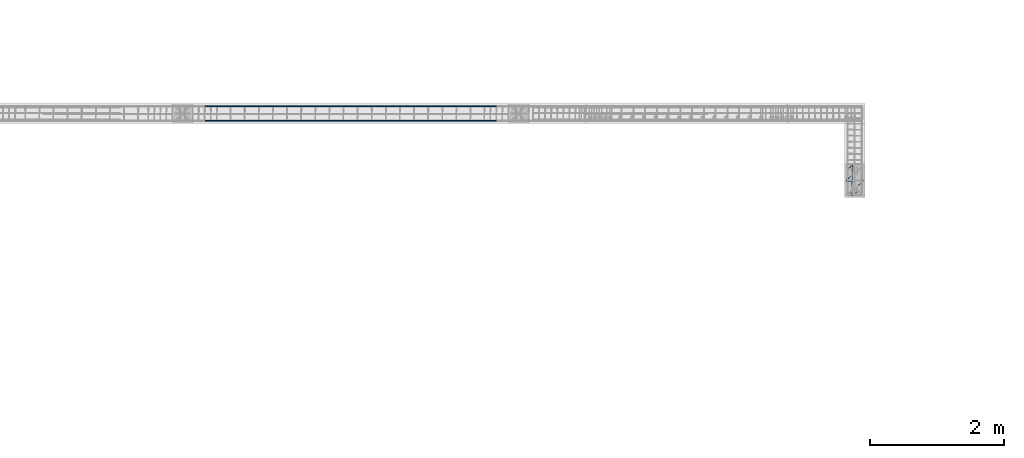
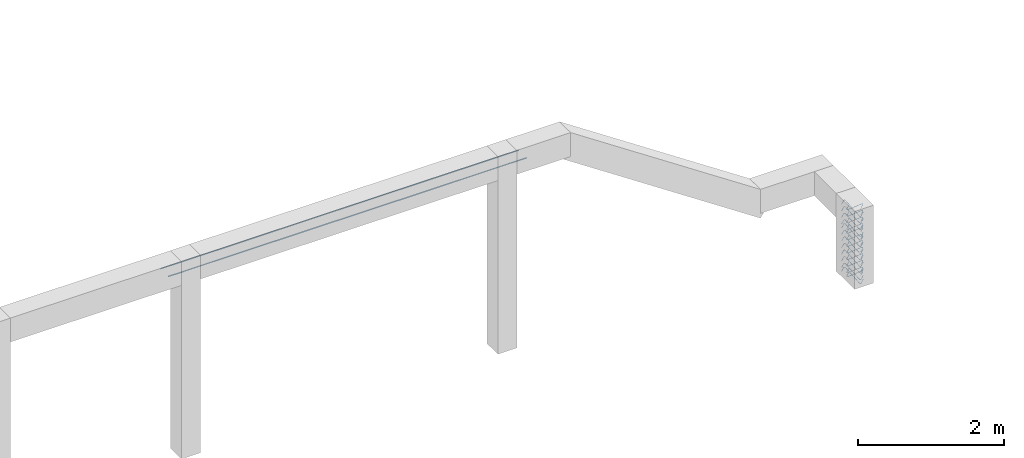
# One storey, part 14 of 24: 2 reinforcing bars.
"""IFC2X3 building model written with IfcOpenShell, lengths in metres."""

from ifc_helpers import new_model, entity, si_unit, direction, frame, origin, place, context, subcontext, project, spatial, shape, source, transform, mapped, element, save


model = new_model("IFC2X3")

# Units and contexts
model_context = context("Model", 3, precision=0.0, world=origin(), true_north=direction((0.0, 1.0)))
plan_context = context("Plan", 3, precision=0.0, world=origin(), true_north=direction((0.0, 1.0)))
body_context = subcontext(model_context, "Body", "Model", "MODEL_VIEW", scale=1.0)
ifc_project = project(units=[si_unit("LENGTHUNIT", "METRE"), si_unit("AREAUNIT", "SQUARE_METRE"), si_unit("VOLUMEUNIT", "CUBIC_METRE"), si_unit("PLANEANGLEUNIT", "RADIAN"), si_unit("THERMODYNAMICTEMPERATUREUNIT", "DEGREE_CELSIUS"), si_unit("FORCEUNIT", "NEWTON"), si_unit("MASSUNIT", "GRAM", prefix="KILO")], contexts=[model_context, plan_context])

# Site, building, storey
placement = place(None, origin())
site = spatial("IfcSite", under=ifc_project, at=placement, Name="Default Site", CompositionType="ELEMENT")
building = spatial("IfcBuilding", under=site, at=placement, Name="Default Building", CompositionType="ELEMENT")
storey_placement = place(placement, frame((0.0, 0.0, 3.3), z_axis=(1.0, 0.0, 0.0), x_axis=(0.0, 0.0, 1.0)))
storey = spatial("IfcBuildingStorey", under=building, at=storey_placement, Name="Piano 2", CompositionType="ELEMENT", Elevation=3.3)

# Reinforcing bars
shared_shape_1 = source(origin(), body_context, None, "AdvancedSweptSolid", [
    entity("IfcSweptDiskSolid", entity("IfcCompositeCurve", [entity("IfcCompositeCurveSegment", "CONTINUOUS", True, entity("IfcPolyline", [entity("IfcCartesianPoint", [0.0, 0.0, 0.0]), entity("IfcCartesianPoint", [0.326909, 0.0, 0.0]), entity("IfcCartesianPoint", [5.326909, 0.0, 0.0]), entity("IfcCartesianPoint", [5.653818, 0.0, 0.0])]))], False), 0.006, 0.0, 0.0),
])
shared_shape_2 = source(origin(), body_context, None, "MappedRepresentation", [mapped(shared_shape_1, transform((6.673091, 5.106, 3.087)))])
shared_shape_3 = source(origin(), body_context, None, "AdvancedSweptSolid", [
    entity("IfcSweptDiskSolid", entity("IfcCompositeCurve", [entity("IfcCompositeCurveSegment", "CONTINUOUS", True, entity("IfcPolyline", [entity("IfcCartesianPoint", [0.0, 0.0, 0.0]), entity("IfcCartesianPoint", [0.326909, 0.0, 0.0]), entity("IfcCartesianPoint", [5.326909, 0.0, 0.0]), entity("IfcCartesianPoint", [5.653818, 0.0, 0.0])]))], False), 0.006, 0.0, 0.0),
])
shared_shape_4 = source(origin(), body_context, None, "MappedRepresentation", [mapped(shared_shape_3, transform((6.673091, 4.894, 3.087)))])
element("IfcReinforcingBar", 1, at=placement, inside=storey, Name="Arm Generica; Trave:7 [Piano:2]", BarLength=11.307635, BarRole="NOTDEFINED", BarSurface="TEXTURED", NominalDiameter=0.012, shapes=[
    shape(body_context, None, "MappedRepresentation", [mapped(shared_shape_2, transform((0.0, 0.0, 0.0))), mapped(shared_shape_4, transform((0.0, 0.0, 0.0)))]),
])
shared_shape_5 = source(origin(), body_context, None, "AdvancedSweptSolid", [
    entity("IfcSweptDiskSolid", entity("IfcCompositeCurve", [entity("IfcCompositeCurveSegment", "CONTINUOUS", True, entity("IfcPolyline", [entity("IfcCartesianPoint", [0.0, 0.0, 0.0]), entity("IfcCartesianPoint", [-0.068884, -0.063585, 0.0]), entity("IfcCartesianPoint", [-0.079736, -0.067828, 0.0]), entity("IfcCartesianPoint", [-0.084613, -0.065808, 0.0]), entity("IfcCartesianPoint", [-0.089037, -0.055129, 0.0]), entity("IfcCartesianPoint", [-0.089037, -0.052272, 0.0]), entity("IfcCartesianPoint", [-0.067037, 0.368616, 0.0]), entity("IfcCartesianPoint", [-0.067037, 0.371101, 0.0]), entity("IfcCartesianPoint", [-0.071723, 0.382415, 0.0]), entity("IfcCartesianPoint", [-0.075966, 0.384172, 0.0]), entity("IfcCartesianPoint", [-0.08719, 0.379929, 0.0]), entity("IfcCartesianPoint", [-0.156073, 0.316344, 0.0])]))], False), 0.004, 0.0, 0.0),
])
shared_shape_6 = source(origin(), body_context, None, "AdvancedSweptSolid", [
    entity("IfcSweptDiskSolid", entity("IfcCompositeCurve", [entity("IfcCompositeCurveSegment", "CONTINUOUS", True, entity("IfcPolyline", [entity("IfcCartesianPoint", [0.0, 0.0, 0.0]), entity("IfcCartesianPoint", [-0.068884, -0.063585, 0.0]), entity("IfcCartesianPoint", [-0.079736, -0.067828, 0.0]), entity("IfcCartesianPoint", [-0.084613, -0.065808, 0.0]), entity("IfcCartesianPoint", [-0.089037, -0.055129, 0.0]), entity("IfcCartesianPoint", [-0.089037, -0.052272, 0.0]), entity("IfcCartesianPoint", [-0.067037, 0.368616, 0.0]), entity("IfcCartesianPoint", [-0.067037, 0.371101, 0.0]), entity("IfcCartesianPoint", [-0.071723, 0.382415, 0.0]), entity("IfcCartesianPoint", [-0.075966, 0.384172, 0.0]), entity("IfcCartesianPoint", [-0.08719, 0.379929, 0.0]), entity("IfcCartesianPoint", [-0.156073, 0.316344, 0.0])]))], False), 0.004, 0.0, 0.0),
])
shared_shape_7 = source(origin(), body_context, None, "AdvancedSweptSolid", [
    entity("IfcSweptDiskSolid", entity("IfcCompositeCurve", [entity("IfcCompositeCurveSegment", "CONTINUOUS", True, entity("IfcPolyline", [entity("IfcCartesianPoint", [0.0, 0.0, 0.0]), entity("IfcCartesianPoint", [-0.068884, -0.063585, 0.0]), entity("IfcCartesianPoint", [-0.079736, -0.067828, 0.0]), entity("IfcCartesianPoint", [-0.084613, -0.065808, 0.0]), entity("IfcCartesianPoint", [-0.089037, -0.055129, 0.0]), entity("IfcCartesianPoint", [-0.089037, -0.052272, 0.0]), entity("IfcCartesianPoint", [-0.067037, 0.368616, 0.0]), entity("IfcCartesianPoint", [-0.067037, 0.371101, 0.0]), entity("IfcCartesianPoint", [-0.071723, 0.382415, 0.0]), entity("IfcCartesianPoint", [-0.075966, 0.384172, 0.0]), entity("IfcCartesianPoint", [-0.08719, 0.379929, 0.0]), entity("IfcCartesianPoint", [-0.156073, 0.316344, 0.0])]))], False), 0.004, 0.0, 0.0),
])
shared_shape_8 = source(origin(), body_context, None, "AdvancedSweptSolid", [
    entity("IfcSweptDiskSolid", entity("IfcCompositeCurve", [entity("IfcCompositeCurveSegment", "CONTINUOUS", True, entity("IfcPolyline", [entity("IfcCartesianPoint", [0.0, 0.0, 0.0]), entity("IfcCartesianPoint", [-0.068884, -0.063585, 0.0]), entity("IfcCartesianPoint", [-0.079736, -0.067828, 0.0]), entity("IfcCartesianPoint", [-0.084613, -0.065808, 0.0]), entity("IfcCartesianPoint", [-0.089037, -0.055129, 0.0]), entity("IfcCartesianPoint", [-0.089037, -0.052272, 0.0]), entity("IfcCartesianPoint", [-0.067037, 0.368616, 0.0]), entity("IfcCartesianPoint", [-0.067037, 0.371101, 0.0]), entity("IfcCartesianPoint", [-0.071723, 0.382415, 0.0]), entity("IfcCartesianPoint", [-0.075966, 0.384172, 0.0]), entity("IfcCartesianPoint", [-0.08719, 0.379929, 0.0]), entity("IfcCartesianPoint", [-0.156073, 0.316344, 0.0])]))], False), 0.004, 0.0, 0.0),
])
shared_shape_9 = source(origin(), body_context, None, "AdvancedSweptSolid", [
    entity("IfcSweptDiskSolid", entity("IfcCompositeCurve", [entity("IfcCompositeCurveSegment", "CONTINUOUS", True, entity("IfcPolyline", [entity("IfcCartesianPoint", [0.0, 0.0, 0.0]), entity("IfcCartesianPoint", [-0.068884, -0.063585, 0.0]), entity("IfcCartesianPoint", [-0.079736, -0.067828, 0.0]), entity("IfcCartesianPoint", [-0.084613, -0.065808, 0.0]), entity("IfcCartesianPoint", [-0.089037, -0.055129, 0.0]), entity("IfcCartesianPoint", [-0.089037, -0.052272, 0.0]), entity("IfcCartesianPoint", [-0.067037, 0.368616, 0.0]), entity("IfcCartesianPoint", [-0.067037, 0.371101, 0.0]), entity("IfcCartesianPoint", [-0.071723, 0.382415, 0.0]), entity("IfcCartesianPoint", [-0.075966, 0.384172, 0.0]), entity("IfcCartesianPoint", [-0.08719, 0.379929, 0.0]), entity("IfcCartesianPoint", [-0.156073, 0.316344, 0.0])]))], False), 0.004, 0.0, 0.0),
])
shared_shape_10 = source(origin(), body_context, None, "AdvancedSweptSolid", [
    entity("IfcSweptDiskSolid", entity("IfcCompositeCurve", [entity("IfcCompositeCurveSegment", "CONTINUOUS", True, entity("IfcPolyline", [entity("IfcCartesianPoint", [0.0, 0.0, 0.0]), entity("IfcCartesianPoint", [-0.068884, -0.063585, 0.0]), entity("IfcCartesianPoint", [-0.079736, -0.067828, 0.0]), entity("IfcCartesianPoint", [-0.084613, -0.065808, 0.0]), entity("IfcCartesianPoint", [-0.089037, -0.055129, 0.0]), entity("IfcCartesianPoint", [-0.089037, -0.052272, 0.0]), entity("IfcCartesianPoint", [-0.067037, 0.368616, 0.0]), entity("IfcCartesianPoint", [-0.067037, 0.371101, 0.0]), entity("IfcCartesianPoint", [-0.071723, 0.382415, 0.0]), entity("IfcCartesianPoint", [-0.075966, 0.384172, 0.0]), entity("IfcCartesianPoint", [-0.08719, 0.379929, 0.0]), entity("IfcCartesianPoint", [-0.156073, 0.316344, 0.0])]))], False), 0.004, 0.0, 0.0),
])
shared_shape_11 = source(origin(), body_context, None, "AdvancedSweptSolid", [
    entity("IfcSweptDiskSolid", entity("IfcCompositeCurve", [entity("IfcCompositeCurveSegment", "CONTINUOUS", True, entity("IfcPolyline", [entity("IfcCartesianPoint", [0.0, 0.0, 0.0]), entity("IfcCartesianPoint", [-0.068884, -0.063585, 0.0]), entity("IfcCartesianPoint", [-0.079736, -0.067828, 0.0]), entity("IfcCartesianPoint", [-0.084613, -0.065808, 0.0]), entity("IfcCartesianPoint", [-0.089037, -0.055129, 0.0]), entity("IfcCartesianPoint", [-0.089037, -0.052272, 0.0]), entity("IfcCartesianPoint", [-0.067037, 0.368616, 0.0]), entity("IfcCartesianPoint", [-0.067037, 0.371101, 0.0]), entity("IfcCartesianPoint", [-0.071723, 0.382415, 0.0]), entity("IfcCartesianPoint", [-0.075966, 0.384172, 0.0]), entity("IfcCartesianPoint", [-0.08719, 0.379929, 0.0]), entity("IfcCartesianPoint", [-0.156073, 0.316344, 0.0])]))], False), 0.004, 0.0, 0.0),
])
shared_shape_12 = source(origin(), body_context, None, "AdvancedSweptSolid", [
    entity("IfcSweptDiskSolid", entity("IfcCompositeCurve", [entity("IfcCompositeCurveSegment", "CONTINUOUS", True, entity("IfcPolyline", [entity("IfcCartesianPoint", [0.0, 0.0, 0.0]), entity("IfcCartesianPoint", [-0.068884, -0.063585, 0.0]), entity("IfcCartesianPoint", [-0.079736, -0.067828, 0.0]), entity("IfcCartesianPoint", [-0.084613, -0.065808, 0.0]), entity("IfcCartesianPoint", [-0.089037, -0.055129, 0.0]), entity("IfcCartesianPoint", [-0.089037, -0.052272, 0.0]), entity("IfcCartesianPoint", [-0.067037, 0.368616, 0.0]), entity("IfcCartesianPoint", [-0.067037, 0.371101, 0.0]), entity("IfcCartesianPoint", [-0.071723, 0.382415, 0.0]), entity("IfcCartesianPoint", [-0.075966, 0.384172, 0.0]), entity("IfcCartesianPoint", [-0.08719, 0.379929, 0.0]), entity("IfcCartesianPoint", [-0.156073, 0.316344, 0.0])]))], False), 0.004, 0.0, 0.0),
])
shared_shape_13 = source(origin(), body_context, None, "AdvancedSweptSolid", [
    entity("IfcSweptDiskSolid", entity("IfcCompositeCurve", [entity("IfcCompositeCurveSegment", "CONTINUOUS", True, entity("IfcPolyline", [entity("IfcCartesianPoint", [0.0, 0.0, 0.0]), entity("IfcCartesianPoint", [-0.068884, -0.063585, 0.0]), entity("IfcCartesianPoint", [-0.079736, -0.067828, 0.0]), entity("IfcCartesianPoint", [-0.084613, -0.065808, 0.0]), entity("IfcCartesianPoint", [-0.089037, -0.055129, 0.0]), entity("IfcCartesianPoint", [-0.089037, -0.052272, 0.0]), entity("IfcCartesianPoint", [-0.067037, 0.368616, 0.0]), entity("IfcCartesianPoint", [-0.067037, 0.371101, 0.0]), entity("IfcCartesianPoint", [-0.071723, 0.382415, 0.0]), entity("IfcCartesianPoint", [-0.075966, 0.384172, 0.0]), entity("IfcCartesianPoint", [-0.08719, 0.379929, 0.0]), entity("IfcCartesianPoint", [-0.156073, 0.316344, 0.0])]))], False), 0.004, 0.0, 0.0),
])
shared_shape_14 = source(origin(), body_context, None, "AdvancedSweptSolid", [
    entity("IfcSweptDiskSolid", entity("IfcCompositeCurve", [entity("IfcCompositeCurveSegment", "CONTINUOUS", True, entity("IfcPolyline", [entity("IfcCartesianPoint", [0.0, 0.0, 0.0]), entity("IfcCartesianPoint", [-0.068884, -0.063585, 0.0]), entity("IfcCartesianPoint", [-0.079736, -0.067828, 0.0]), entity("IfcCartesianPoint", [-0.084613, -0.065808, 0.0]), entity("IfcCartesianPoint", [-0.089037, -0.055129, 0.0]), entity("IfcCartesianPoint", [-0.089037, -0.052272, 0.0]), entity("IfcCartesianPoint", [-0.067037, 0.368616, 0.0]), entity("IfcCartesianPoint", [-0.067037, 0.371101, 0.0]), entity("IfcCartesianPoint", [-0.071723, 0.382415, 0.0]), entity("IfcCartesianPoint", [-0.075966, 0.384172, 0.0]), entity("IfcCartesianPoint", [-0.08719, 0.379929, 0.0]), entity("IfcCartesianPoint", [-0.156073, 0.316344, 0.0])]))], False), 0.004, 0.0, 0.0),
])
shared_shape_15 = source(origin(), body_context, None, "AdvancedSweptSolid", [
    entity("IfcSweptDiskSolid", entity("IfcCompositeCurve", [entity("IfcCompositeCurveSegment", "CONTINUOUS", True, entity("IfcPolyline", [entity("IfcCartesianPoint", [0.0, 0.0, 0.0]), entity("IfcCartesianPoint", [-0.068884, -0.063585, 0.0]), entity("IfcCartesianPoint", [-0.079736, -0.067828, 0.0]), entity("IfcCartesianPoint", [-0.084613, -0.065808, 0.0]), entity("IfcCartesianPoint", [-0.089037, -0.055129, 0.0]), entity("IfcCartesianPoint", [-0.089037, -0.052272, 0.0]), entity("IfcCartesianPoint", [-0.067037, 0.368616, 0.0]), entity("IfcCartesianPoint", [-0.067037, 0.371101, 0.0]), entity("IfcCartesianPoint", [-0.071723, 0.382415, 0.0]), entity("IfcCartesianPoint", [-0.075966, 0.384172, 0.0]), entity("IfcCartesianPoint", [-0.08719, 0.379929, 0.0]), entity("IfcCartesianPoint", [-0.156073, 0.316344, 0.0])]))], False), 0.004, 0.0, 0.0),
])
shared_shape_16 = source(origin(), body_context, None, "AdvancedSweptSolid", [
    entity("IfcSweptDiskSolid", entity("IfcCompositeCurve", [entity("IfcCompositeCurveSegment", "CONTINUOUS", True, entity("IfcPolyline", [entity("IfcCartesianPoint", [0.0, 0.0, 0.0]), entity("IfcCartesianPoint", [-0.068884, -0.063585, 0.0]), entity("IfcCartesianPoint", [-0.079736, -0.067828, 0.0]), entity("IfcCartesianPoint", [-0.084613, -0.065808, 0.0]), entity("IfcCartesianPoint", [-0.089037, -0.055129, 0.0]), entity("IfcCartesianPoint", [-0.089037, -0.052272, 0.0]), entity("IfcCartesianPoint", [-0.067037, 0.368616, 0.0]), entity("IfcCartesianPoint", [-0.067037, 0.371101, 0.0]), entity("IfcCartesianPoint", [-0.071723, 0.382415, 0.0]), entity("IfcCartesianPoint", [-0.075966, 0.384172, 0.0]), entity("IfcCartesianPoint", [-0.08719, 0.379929, 0.0]), entity("IfcCartesianPoint", [-0.156073, 0.316344, 0.0])]))], False), 0.004, 0.0, 0.0),
])
shared_shape_17 = source(origin(), body_context, None, "MappedRepresentation", [
    mapped(shared_shape_5, transform((17.039703, 3.841828, 0.945))),
    mapped(shared_shape_6, transform((17.039703, 3.841828, 1.055))),
    mapped(shared_shape_7, transform((17.039703, 3.841828, 1.165))),
    mapped(shared_shape_8, transform((17.039703, 3.841828, 0.835))),
    mapped(shared_shape_9, transform((17.039703, 3.841828, 0.77))),
    mapped(shared_shape_10, transform((17.039703, 3.841828, 0.66))),
    mapped(shared_shape_11, transform((17.039703, 3.841828, 0.55))),
    mapped(shared_shape_12, transform((17.039703, 3.841828, 0.44))),
    mapped(shared_shape_13, transform((17.039703, 3.841828, 0.33))),
    mapped(shared_shape_14, transform((17.039703, 3.841828, 0.22))),
    mapped(shared_shape_15, transform((17.039703, 3.841828, 0.11))),
    mapped(shared_shape_16, transform((17.039703, 3.841828, 0.045))),
])
shared_shape_18 = source(origin(), body_context, None, "AdvancedSweptSolid", [
    entity("IfcSweptDiskSolid", entity("IfcCompositeCurve", [entity("IfcCompositeCurveSegment", "CONTINUOUS", True, entity("IfcPolyline", [entity("IfcCartesianPoint", [0.0, 0.0, 0.0]), entity("IfcCartesianPoint", [-0.068333, -0.063076, 0.0]), entity("IfcCartesianPoint", [-0.072137, -0.068416, 0.0]), entity("IfcCartesianPoint", [-0.07348, -0.074833, 0.0]), entity("IfcCartesianPoint", [-0.07199, -0.078431, 0.0]), entity("IfcCartesianPoint", [-0.060409, -0.083384, 0.0]), entity("IfcCartesianPoint", [-0.057924, -0.083384, 0.0]), entity("IfcCartesianPoint", [0.162963, -0.061384, 0.0]), entity("IfcCartesianPoint", [0.165449, -0.061384, 0.0]), entity("IfcCartesianPoint", [0.176762, -0.066071, 0.0]), entity("IfcCartesianPoint", [0.17852, -0.070313, 0.0]), entity("IfcCartesianPoint", [0.177249, -0.076384, 0.0]), entity("IfcCartesianPoint", [0.17365, -0.081436, 0.0]), entity("IfcCartesianPoint", [0.105039, -0.144769, 0.0])]))], False), 0.004, 0.0, 0.0),
])
shared_shape_19 = source(origin(), body_context, None, "AdvancedSweptSolid", [
    entity("IfcSweptDiskSolid", entity("IfcCompositeCurve", [entity("IfcCompositeCurveSegment", "CONTINUOUS", True, entity("IfcPolyline", [entity("IfcCartesianPoint", [0.0, 0.0, 0.0]), entity("IfcCartesianPoint", [-0.068333, -0.063076, 0.0]), entity("IfcCartesianPoint", [-0.072137, -0.068416, 0.0]), entity("IfcCartesianPoint", [-0.07348, -0.074833, 0.0]), entity("IfcCartesianPoint", [-0.07199, -0.078431, 0.0]), entity("IfcCartesianPoint", [-0.060409, -0.083384, 0.0]), entity("IfcCartesianPoint", [-0.057924, -0.083384, 0.0]), entity("IfcCartesianPoint", [0.162963, -0.061384, 0.0]), entity("IfcCartesianPoint", [0.165449, -0.061384, 0.0]), entity("IfcCartesianPoint", [0.176762, -0.066071, 0.0]), entity("IfcCartesianPoint", [0.17852, -0.070313, 0.0]), entity("IfcCartesianPoint", [0.177249, -0.076384, 0.0]), entity("IfcCartesianPoint", [0.17365, -0.081436, 0.0]), entity("IfcCartesianPoint", [0.105039, -0.144769, 0.0])]))], False), 0.004, 0.0, 0.0),
])
shared_shape_20 = source(origin(), body_context, None, "AdvancedSweptSolid", [
    entity("IfcSweptDiskSolid", entity("IfcCompositeCurve", [entity("IfcCompositeCurveSegment", "CONTINUOUS", True, entity("IfcPolyline", [entity("IfcCartesianPoint", [0.0, 0.0, 0.0]), entity("IfcCartesianPoint", [-0.068333, -0.063076, 0.0]), entity("IfcCartesianPoint", [-0.072137, -0.068416, 0.0]), entity("IfcCartesianPoint", [-0.07348, -0.074833, 0.0]), entity("IfcCartesianPoint", [-0.07199, -0.078431, 0.0]), entity("IfcCartesianPoint", [-0.060409, -0.083384, 0.0]), entity("IfcCartesianPoint", [-0.057924, -0.083384, 0.0]), entity("IfcCartesianPoint", [0.162963, -0.061384, 0.0]), entity("IfcCartesianPoint", [0.165449, -0.061384, 0.0]), entity("IfcCartesianPoint", [0.176762, -0.066071, 0.0]), entity("IfcCartesianPoint", [0.17852, -0.070313, 0.0]), entity("IfcCartesianPoint", [0.177249, -0.076384, 0.0]), entity("IfcCartesianPoint", [0.17365, -0.081436, 0.0]), entity("IfcCartesianPoint", [0.105039, -0.144769, 0.0])]))], False), 0.004, 0.0, 0.0),
])
shared_shape_21 = source(origin(), body_context, None, "AdvancedSweptSolid", [
    entity("IfcSweptDiskSolid", entity("IfcCompositeCurve", [entity("IfcCompositeCurveSegment", "CONTINUOUS", True, entity("IfcPolyline", [entity("IfcCartesianPoint", [0.0, 0.0, 0.0]), entity("IfcCartesianPoint", [-0.068333, -0.063076, 0.0]), entity("IfcCartesianPoint", [-0.072137, -0.068416, 0.0]), entity("IfcCartesianPoint", [-0.07348, -0.074833, 0.0]), entity("IfcCartesianPoint", [-0.07199, -0.078431, 0.0]), entity("IfcCartesianPoint", [-0.060409, -0.083384, 0.0]), entity("IfcCartesianPoint", [-0.057924, -0.083384, 0.0]), entity("IfcCartesianPoint", [0.162963, -0.061384, 0.0]), entity("IfcCartesianPoint", [0.165449, -0.061384, 0.0]), entity("IfcCartesianPoint", [0.176762, -0.066071, 0.0]), entity("IfcCartesianPoint", [0.17852, -0.070313, 0.0]), entity("IfcCartesianPoint", [0.177249, -0.076384, 0.0]), entity("IfcCartesianPoint", [0.17365, -0.081436, 0.0]), entity("IfcCartesianPoint", [0.105039, -0.144769, 0.0])]))], False), 0.004, 0.0, 0.0),
])
shared_shape_22 = source(origin(), body_context, None, "AdvancedSweptSolid", [
    entity("IfcSweptDiskSolid", entity("IfcCompositeCurve", [entity("IfcCompositeCurveSegment", "CONTINUOUS", True, entity("IfcPolyline", [entity("IfcCartesianPoint", [0.0, 0.0, 0.0]), entity("IfcCartesianPoint", [-0.068333, -0.063076, 0.0]), entity("IfcCartesianPoint", [-0.072137, -0.068416, 0.0]), entity("IfcCartesianPoint", [-0.07348, -0.074833, 0.0]), entity("IfcCartesianPoint", [-0.07199, -0.078431, 0.0]), entity("IfcCartesianPoint", [-0.060409, -0.083384, 0.0]), entity("IfcCartesianPoint", [-0.057924, -0.083384, 0.0]), entity("IfcCartesianPoint", [0.162963, -0.061384, 0.0]), entity("IfcCartesianPoint", [0.165449, -0.061384, 0.0]), entity("IfcCartesianPoint", [0.176762, -0.066071, 0.0]), entity("IfcCartesianPoint", [0.17852, -0.070313, 0.0]), entity("IfcCartesianPoint", [0.177249, -0.076384, 0.0]), entity("IfcCartesianPoint", [0.17365, -0.081436, 0.0]), entity("IfcCartesianPoint", [0.105039, -0.144769, 0.0])]))], False), 0.004, 0.0, 0.0),
])
shared_shape_23 = source(origin(), body_context, None, "AdvancedSweptSolid", [
    entity("IfcSweptDiskSolid", entity("IfcCompositeCurve", [entity("IfcCompositeCurveSegment", "CONTINUOUS", True, entity("IfcPolyline", [entity("IfcCartesianPoint", [0.0, 0.0, 0.0]), entity("IfcCartesianPoint", [-0.068333, -0.063076, 0.0]), entity("IfcCartesianPoint", [-0.072137, -0.068416, 0.0]), entity("IfcCartesianPoint", [-0.07348, -0.074833, 0.0]), entity("IfcCartesianPoint", [-0.07199, -0.078431, 0.0]), entity("IfcCartesianPoint", [-0.060409, -0.083384, 0.0]), entity("IfcCartesianPoint", [-0.057924, -0.083384, 0.0]), entity("IfcCartesianPoint", [0.162963, -0.061384, 0.0]), entity("IfcCartesianPoint", [0.165449, -0.061384, 0.0]), entity("IfcCartesianPoint", [0.176762, -0.066071, 0.0]), entity("IfcCartesianPoint", [0.17852, -0.070313, 0.0]), entity("IfcCartesianPoint", [0.177249, -0.076384, 0.0]), entity("IfcCartesianPoint", [0.17365, -0.081436, 0.0]), entity("IfcCartesianPoint", [0.105039, -0.144769, 0.0])]))], False), 0.004, 0.0, 0.0),
])
shared_shape_24 = source(origin(), body_context, None, "AdvancedSweptSolid", [
    entity("IfcSweptDiskSolid", entity("IfcCompositeCurve", [entity("IfcCompositeCurveSegment", "CONTINUOUS", True, entity("IfcPolyline", [entity("IfcCartesianPoint", [0.0, 0.0, 0.0]), entity("IfcCartesianPoint", [-0.068333, -0.063076, 0.0]), entity("IfcCartesianPoint", [-0.072137, -0.068416, 0.0]), entity("IfcCartesianPoint", [-0.07348, -0.074833, 0.0]), entity("IfcCartesianPoint", [-0.07199, -0.078431, 0.0]), entity("IfcCartesianPoint", [-0.060409, -0.083384, 0.0]), entity("IfcCartesianPoint", [-0.057924, -0.083384, 0.0]), entity("IfcCartesianPoint", [0.162963, -0.061384, 0.0]), entity("IfcCartesianPoint", [0.165449, -0.061384, 0.0]), entity("IfcCartesianPoint", [0.176762, -0.066071, 0.0]), entity("IfcCartesianPoint", [0.17852, -0.070313, 0.0]), entity("IfcCartesianPoint", [0.177249, -0.076384, 0.0]), entity("IfcCartesianPoint", [0.17365, -0.081436, 0.0]), entity("IfcCartesianPoint", [0.105039, -0.144769, 0.0])]))], False), 0.004, 0.0, 0.0),
])
shared_shape_25 = source(origin(), body_context, None, "AdvancedSweptSolid", [
    entity("IfcSweptDiskSolid", entity("IfcCompositeCurve", [entity("IfcCompositeCurveSegment", "CONTINUOUS", True, entity("IfcPolyline", [entity("IfcCartesianPoint", [0.0, 0.0, 0.0]), entity("IfcCartesianPoint", [-0.068333, -0.063076, 0.0]), entity("IfcCartesianPoint", [-0.072137, -0.068416, 0.0]), entity("IfcCartesianPoint", [-0.07348, -0.074833, 0.0]), entity("IfcCartesianPoint", [-0.07199, -0.078431, 0.0]), entity("IfcCartesianPoint", [-0.060409, -0.083384, 0.0]), entity("IfcCartesianPoint", [-0.057924, -0.083384, 0.0]), entity("IfcCartesianPoint", [0.162963, -0.061384, 0.0]), entity("IfcCartesianPoint", [0.165449, -0.061384, 0.0]), entity("IfcCartesianPoint", [0.176762, -0.066071, 0.0]), entity("IfcCartesianPoint", [0.17852, -0.070313, 0.0]), entity("IfcCartesianPoint", [0.177249, -0.076384, 0.0]), entity("IfcCartesianPoint", [0.17365, -0.081436, 0.0]), entity("IfcCartesianPoint", [0.105039, -0.144769, 0.0])]))], False), 0.004, 0.0, 0.0),
])
shared_shape_26 = source(origin(), body_context, None, "AdvancedSweptSolid", [
    entity("IfcSweptDiskSolid", entity("IfcCompositeCurve", [entity("IfcCompositeCurveSegment", "CONTINUOUS", True, entity("IfcPolyline", [entity("IfcCartesianPoint", [0.0, 0.0, 0.0]), entity("IfcCartesianPoint", [-0.068333, -0.063076, 0.0]), entity("IfcCartesianPoint", [-0.072137, -0.068416, 0.0]), entity("IfcCartesianPoint", [-0.07348, -0.074833, 0.0]), entity("IfcCartesianPoint", [-0.07199, -0.078431, 0.0]), entity("IfcCartesianPoint", [-0.060409, -0.083384, 0.0]), entity("IfcCartesianPoint", [-0.057924, -0.083384, 0.0]), entity("IfcCartesianPoint", [0.162963, -0.061384, 0.0]), entity("IfcCartesianPoint", [0.165449, -0.061384, 0.0]), entity("IfcCartesianPoint", [0.176762, -0.066071, 0.0]), entity("IfcCartesianPoint", [0.17852, -0.070313, 0.0]), entity("IfcCartesianPoint", [0.177249, -0.076384, 0.0]), entity("IfcCartesianPoint", [0.17365, -0.081436, 0.0]), entity("IfcCartesianPoint", [0.105039, -0.144769, 0.0])]))], False), 0.004, 0.0, 0.0),
])
shared_shape_27 = source(origin(), body_context, None, "AdvancedSweptSolid", [
    entity("IfcSweptDiskSolid", entity("IfcCompositeCurve", [entity("IfcCompositeCurveSegment", "CONTINUOUS", True, entity("IfcPolyline", [entity("IfcCartesianPoint", [0.0, 0.0, 0.0]), entity("IfcCartesianPoint", [-0.068333, -0.063076, 0.0]), entity("IfcCartesianPoint", [-0.072137, -0.068416, 0.0]), entity("IfcCartesianPoint", [-0.07348, -0.074833, 0.0]), entity("IfcCartesianPoint", [-0.07199, -0.078431, 0.0]), entity("IfcCartesianPoint", [-0.060409, -0.083384, 0.0]), entity("IfcCartesianPoint", [-0.057924, -0.083384, 0.0]), entity("IfcCartesianPoint", [0.162963, -0.061384, 0.0]), entity("IfcCartesianPoint", [0.165449, -0.061384, 0.0]), entity("IfcCartesianPoint", [0.176762, -0.066071, 0.0]), entity("IfcCartesianPoint", [0.17852, -0.070313, 0.0]), entity("IfcCartesianPoint", [0.177249, -0.076384, 0.0]), entity("IfcCartesianPoint", [0.17365, -0.081436, 0.0]), entity("IfcCartesianPoint", [0.105039, -0.144769, 0.0])]))], False), 0.004, 0.0, 0.0),
])
shared_shape_28 = source(origin(), body_context, None, "AdvancedSweptSolid", [
    entity("IfcSweptDiskSolid", entity("IfcCompositeCurve", [entity("IfcCompositeCurveSegment", "CONTINUOUS", True, entity("IfcPolyline", [entity("IfcCartesianPoint", [0.0, 0.0, 0.0]), entity("IfcCartesianPoint", [-0.068333, -0.063076, 0.0]), entity("IfcCartesianPoint", [-0.072137, -0.068416, 0.0]), entity("IfcCartesianPoint", [-0.07348, -0.074833, 0.0]), entity("IfcCartesianPoint", [-0.07199, -0.078431, 0.0]), entity("IfcCartesianPoint", [-0.060409, -0.083384, 0.0]), entity("IfcCartesianPoint", [-0.057924, -0.083384, 0.0]), entity("IfcCartesianPoint", [0.162963, -0.061384, 0.0]), entity("IfcCartesianPoint", [0.165449, -0.061384, 0.0]), entity("IfcCartesianPoint", [0.176762, -0.066071, 0.0]), entity("IfcCartesianPoint", [0.17852, -0.070313, 0.0]), entity("IfcCartesianPoint", [0.177249, -0.076384, 0.0]), entity("IfcCartesianPoint", [0.17365, -0.081436, 0.0]), entity("IfcCartesianPoint", [0.105039, -0.144769, 0.0])]))], False), 0.004, 0.0, 0.0),
])
shared_shape_29 = source(origin(), body_context, None, "AdvancedSweptSolid", [
    entity("IfcSweptDiskSolid", entity("IfcCompositeCurve", [entity("IfcCompositeCurveSegment", "CONTINUOUS", True, entity("IfcPolyline", [entity("IfcCartesianPoint", [0.0, 0.0, 0.0]), entity("IfcCartesianPoint", [-0.068333, -0.063076, 0.0]), entity("IfcCartesianPoint", [-0.072137, -0.068416, 0.0]), entity("IfcCartesianPoint", [-0.07348, -0.074833, 0.0]), entity("IfcCartesianPoint", [-0.07199, -0.078431, 0.0]), entity("IfcCartesianPoint", [-0.060409, -0.083384, 0.0]), entity("IfcCartesianPoint", [-0.057924, -0.083384, 0.0]), entity("IfcCartesianPoint", [0.162963, -0.061384, 0.0]), entity("IfcCartesianPoint", [0.165449, -0.061384, 0.0]), entity("IfcCartesianPoint", [0.176762, -0.066071, 0.0]), entity("IfcCartesianPoint", [0.17852, -0.070313, 0.0]), entity("IfcCartesianPoint", [0.177249, -0.076384, 0.0]), entity("IfcCartesianPoint", [0.17365, -0.081436, 0.0]), entity("IfcCartesianPoint", [0.105039, -0.144769, 0.0])]))], False), 0.004, 0.0, 0.0),
])
shared_shape_30 = source(origin(), body_context, None, "MappedRepresentation", [
    mapped(shared_shape_18, transform((16.94748, 4.072384, 0.957))),
    mapped(shared_shape_19, transform((16.94748, 4.072384, 1.067))),
    mapped(shared_shape_20, transform((16.94748, 4.072384, 1.177))),
    mapped(shared_shape_21, transform((16.94748, 4.072384, 0.847))),
    mapped(shared_shape_22, transform((16.94748, 4.072384, 0.782))),
    mapped(shared_shape_23, transform((16.94748, 4.072384, 0.672))),
    mapped(shared_shape_24, transform((16.94748, 4.072384, 0.562))),
    mapped(shared_shape_25, transform((16.94748, 4.072384, 0.452))),
    mapped(shared_shape_26, transform((16.94748, 4.072384, 0.342))),
    mapped(shared_shape_27, transform((16.94748, 4.072384, 0.232))),
    mapped(shared_shape_28, transform((16.94748, 4.072384, 0.122))),
    mapped(shared_shape_29, transform((16.94748, 4.072384, 0.057))),
])
element("IfcReinforcingBar", 2, at=placement, inside=storey, Name="Arm Spillo; Pilastro:29 [Piano:2]", BarLength=13.833533, BarRole="LIGATURE", BarSurface="TEXTURED", NominalDiameter=0.008, shapes=[
    shape(body_context, None, "MappedRepresentation", [mapped(shared_shape_17, transform((0.0, 0.0, 0.0))), mapped(shared_shape_30, transform((0.0, 0.0, 0.0)))]),
])

save(model, "model.ifc")
